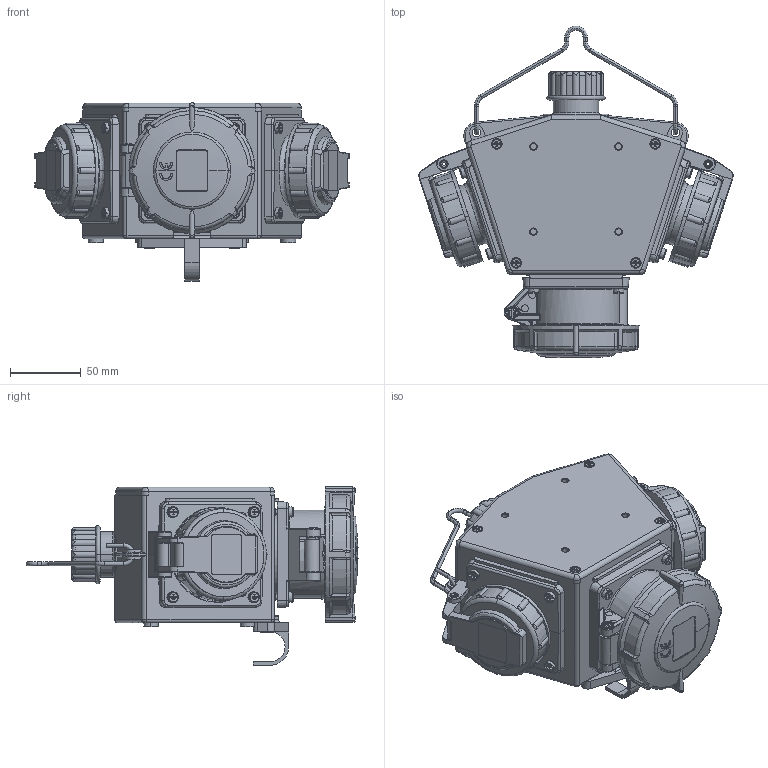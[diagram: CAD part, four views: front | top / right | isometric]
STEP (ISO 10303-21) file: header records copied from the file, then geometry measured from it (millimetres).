
FILE_DESCRIPTION((''),'2;1');
FILE_NAME('1116828_ASM_SW0001','2018-05-16T',('gisse'),('MENNEKES'),'PRO/ENGINEER BY PARAMETRIC TECHNOLOGY CORPORATION, 2015440','PRO/ENGINEER BY PARAMETRIC TECHNOLOGY CORPORATION, 2015440','');
FILE_SCHEMA(('AUTOMOTIVE_DESIGN { 1 0 10303 214 1 1 1 1 }'));
Products named in the file (1): 1116828_ASM_SW0001
Bounding box: 221.62 x 234 x 125.85 mm (x, y, z)
Volume: 1833426 mm3; surface area: 152420 mm2
Topology: 2 solids, 2 shells, 2058 faces, 5358 edges, 3352 vertices
Faces by surface type: plane 783, cylinder 528, cone 268, bspline 239, torus 223, sphere 17
Entity records: 122701 total; most frequent: CARTESIAN_POINT 34582, ORIENTED_EDGE 10660, DIRECTION 9481, PRESENTATION_STYLE_ASSIGNMENT 7307, STYLED_ITEM 5332, CURVE_STYLE 5330, EDGE_CURVE 5330, FILL_AREA_STYLE_COLOUR 3920
